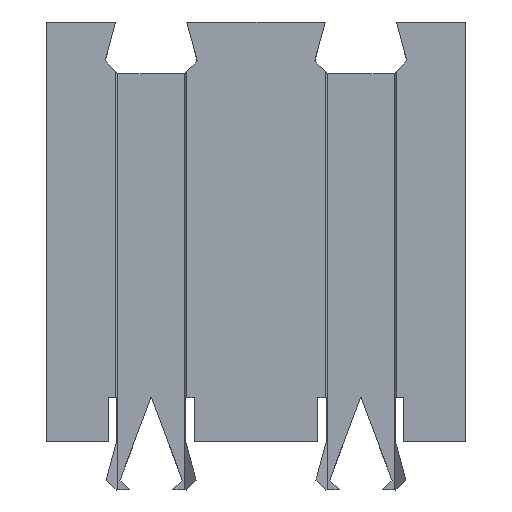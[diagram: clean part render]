
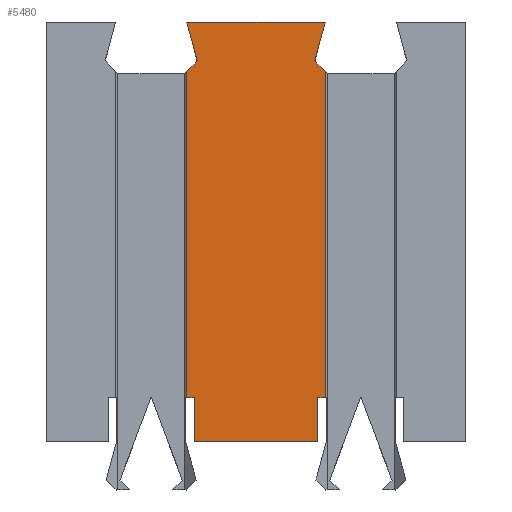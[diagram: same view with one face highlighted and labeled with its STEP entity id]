
A CAD part, top view. The second image highlights one B-rep face of the part: STEP entity #5480.
In plain terms, the highlighted planar face has unit normal (0, 0, 1).
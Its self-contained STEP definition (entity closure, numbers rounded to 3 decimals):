
#304=FACE_OUTER_BOUND('',#622,.T.);
#622=EDGE_LOOP('',(#4731,#4732,#4733,#4734,#4735,#4736,#4737,#4738,#4739,
#4740,#4741,#4742));
#1092=LINE('',#8094,#1848);
#1109=LINE('',#8127,#1865);
#1114=LINE('',#8135,#1870);
#1117=LINE('',#8142,#1873);
#1119=LINE('',#8145,#1875);
#1209=LINE('',#8330,#1965);
#1338=LINE('',#8583,#2094);
#1353=LINE('',#8612,#2109);
#1357=LINE('',#8620,#2113);
#1360=LINE('',#8626,#2116);
#1361=LINE('',#8630,#2117);
#1362=LINE('',#8631,#2118);
#1848=VECTOR('',#6596,10.);
#1865=VECTOR('',#6629,10.);
#1870=VECTOR('',#6640,10.);
#1873=VECTOR('',#6649,10.);
#1875=VECTOR('',#6653,10.);
#1965=VECTOR('',#6827,10.);
#2094=VECTOR('',#7050,10.);
#2109=VECTOR('',#7079,10.);
#2113=VECTOR('',#7087,10.);
#2116=VECTOR('',#7096,10.);
#2117=VECTOR('',#7101,10.);
#2118=VECTOR('',#7102,10.);
#2440=VERTEX_POINT('',#8080);
#2445=VERTEX_POINT('',#8091);
#2446=VERTEX_POINT('',#8093);
#2453=VERTEX_POINT('',#8124);
#2454=VERTEX_POINT('',#8126);
#2455=VERTEX_POINT('',#8141);
#2508=VERTEX_POINT('',#8329);
#2584=VERTEX_POINT('',#8580);
#2585=VERTEX_POINT('',#8582);
#2592=VERTEX_POINT('',#8610);
#2594=VERTEX_POINT('',#8618);
#2595=VERTEX_POINT('',#8629);
#3060=EDGE_CURVE('',#2445,#2446,#1092,.T.);
#3077=EDGE_CURVE('',#2453,#2454,#1109,.T.);
#3082=EDGE_CURVE('',#2454,#2445,#1114,.T.);
#3085=EDGE_CURVE('',#2446,#2455,#1117,.T.);
#3087=EDGE_CURVE('',#2455,#2440,#1119,.T.);
#3177=EDGE_CURVE('',#2508,#2440,#1209,.T.);
#3306=EDGE_CURVE('',#2585,#2584,#1338,.T.);
#3321=EDGE_CURVE('',#2592,#2453,#1353,.T.);
#3325=EDGE_CURVE('',#2592,#2594,#1357,.T.);
#3328=EDGE_CURVE('',#2594,#2585,#1360,.T.);
#3329=EDGE_CURVE('',#2584,#2595,#1361,.T.);
#3330=EDGE_CURVE('',#2595,#2508,#1362,.T.);
#4731=ORIENTED_EDGE('',*,*,#3306,.T.);
#4732=ORIENTED_EDGE('',*,*,#3329,.T.);
#4733=ORIENTED_EDGE('',*,*,#3330,.T.);
#4734=ORIENTED_EDGE('',*,*,#3177,.T.);
#4735=ORIENTED_EDGE('',*,*,#3087,.F.);
#4736=ORIENTED_EDGE('',*,*,#3085,.F.);
#4737=ORIENTED_EDGE('',*,*,#3060,.F.);
#4738=ORIENTED_EDGE('',*,*,#3082,.F.);
#4739=ORIENTED_EDGE('',*,*,#3077,.F.);
#4740=ORIENTED_EDGE('',*,*,#3321,.F.);
#4741=ORIENTED_EDGE('',*,*,#3325,.T.);
#4742=ORIENTED_EDGE('',*,*,#3328,.T.);
#5169=PLANE('',#5796);
#5480=ADVANCED_FACE('',(#304),#5169,.T.);
#5796=AXIS2_PLACEMENT_3D('',#8628,#7099,#7100);
#6596=DIRECTION('',(0.,1.,0.));
#6629=DIRECTION('',(0.,1.,0.));
#6640=DIRECTION('',(-1.,0.,0.));
#6649=DIRECTION('',(0.707,0.707,0.));
#6653=DIRECTION('',(-0.259,0.966,0.));
#6827=DIRECTION('',(-1.,0.,0.));
#7050=DIRECTION('',(0.,1.,0.));
#7079=DIRECTION('',(-1.,0.,0.));
#7087=DIRECTION('',(0.,1.,0.));
#7096=DIRECTION('',(1.,0.,0.));
#7099=DIRECTION('center_axis',(0.,0.,1.));
#7100=DIRECTION('ref_axis',(1.,0.,0.));
#7101=DIRECTION('',(-0.707,0.707,0.));
#7102=DIRECTION('',(0.259,0.966,0.));
#8080=CARTESIAN_POINT('',(-8.3,20.,10.));
#8091=CARTESIAN_POINT('',(-8.3,2.1,10.));
#8093=CARTESIAN_POINT('',(-8.3,17.648,10.));
#8094=CARTESIAN_POINT('',(-8.3,10.174,10.));
#8124=CARTESIAN_POINT('',(-7.95,0.,10.));
#8126=CARTESIAN_POINT('',(-7.95,2.1,10.));
#8127=CARTESIAN_POINT('',(-7.95,2.1,10.));
#8135=CARTESIAN_POINT('',(-8.352,2.1,10.));
#8141=CARTESIAN_POINT('',(-7.803,18.145,10.));
#8142=CARTESIAN_POINT('',(-8.404,17.544,10.));
#8145=CARTESIAN_POINT('',(-7.803,18.145,10.));
#8329=CARTESIAN_POINT('',(-1.7,20.,10.));
#8330=CARTESIAN_POINT('',(-1.7,20.,10.));
#8580=CARTESIAN_POINT('',(-1.7,17.648,10.));
#8582=CARTESIAN_POINT('',(-1.7,2.1,10.));
#8583=CARTESIAN_POINT('',(-1.7,10.174,10.));
#8610=CARTESIAN_POINT('',(-2.05,0.,10.));
#8612=CARTESIAN_POINT('',(-2.25,0.,10.));
#8618=CARTESIAN_POINT('',(-2.05,2.1,10.));
#8620=CARTESIAN_POINT('',(-2.05,2.1,10.));
#8626=CARTESIAN_POINT('',(-1.648,2.1,10.));
#8628=CARTESIAN_POINT('Origin',(0.,0.347,
10.));
#8629=CARTESIAN_POINT('',(-2.197,18.145,10.));
#8630=CARTESIAN_POINT('',(-1.596,17.544,10.));
#8631=CARTESIAN_POINT('',(-2.197,18.145,10.));
